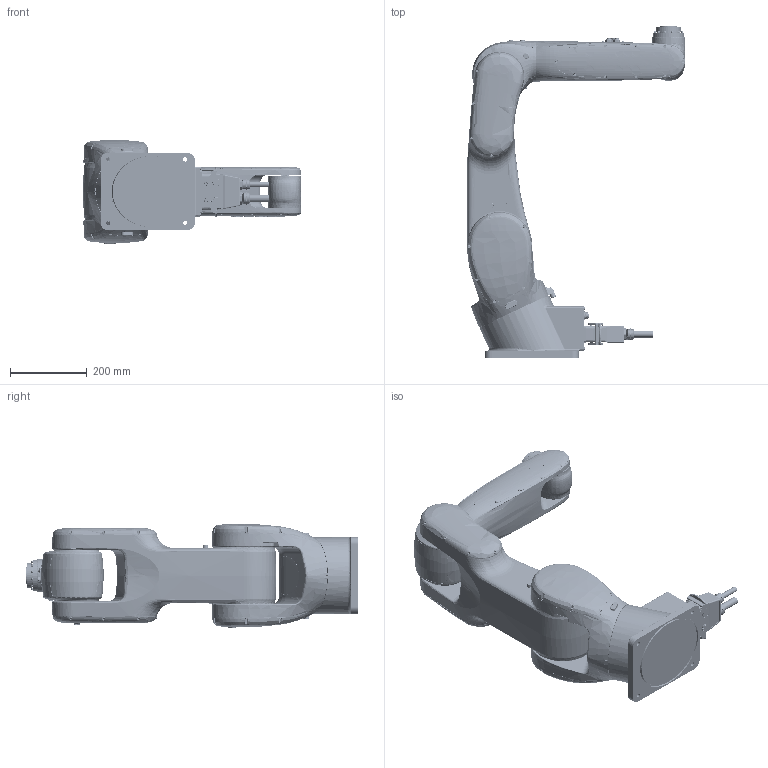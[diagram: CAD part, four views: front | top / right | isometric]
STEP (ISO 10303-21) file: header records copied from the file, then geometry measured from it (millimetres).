
FILE_DESCRIPTION (( 'STEP AP214' ), '1' );
FILE_NAME ('RA09A-06(T3) 小型六轴机器人_简化模型.STEP', '2024-02-26T02:29:39', ( '' ), ( '' ), 'SwSTEP 2.0', 'SolidWorks 2021', '' );
FILE_SCHEMA (( 'AUTOMOTIVE_DESIGN' ));
Length unit declared in the file: millimetre
Products named in the file (8): CR0700-07_01(T3); CR0700-07_06_1; CR0700-T3T4蚳蚚; CR0700-07_02; RA09A-06(T3) 小型六轴机器人_简化模型; CR0900-06_05; CR0900-06_03; CR0700-07_04
Assembly tree (7 placements, depth 2):
  RA09A-06(T3) 小型六轴机器人_简化模型
    CR0700-07_01(T3)
    CR0700-07_02
    CR0900-06_03
    CR0700-07_04
    CR0900-06_05
    CR0700-07_06_1
    CR0700-T3T4蚳蚚
Bounding box: 567.76 x 863.94 x 271.57 mm (x, y, z)
Volume: 29188045.3 mm3; surface area: 1384336.9 mm2
Topology: 38 solids, 42 shells, 5889 faces, 14440 edges, 8695 vertices
Faces by surface type: cylinder 2126, bspline 1849, plane 1235, torus 345, cone 300, sphere 34
Entity records: 428699 total; most frequent: CARTESIAN_POINT 293873, ORIENTED_EDGE 28458, DIRECTION 23302, EDGE_CURVE 14229, AXIS2_PLACEMENT_3D 9476, VERTEX_POINT 8675, EDGE_LOOP 6272, FACE_OUTER_BOUND 5889
